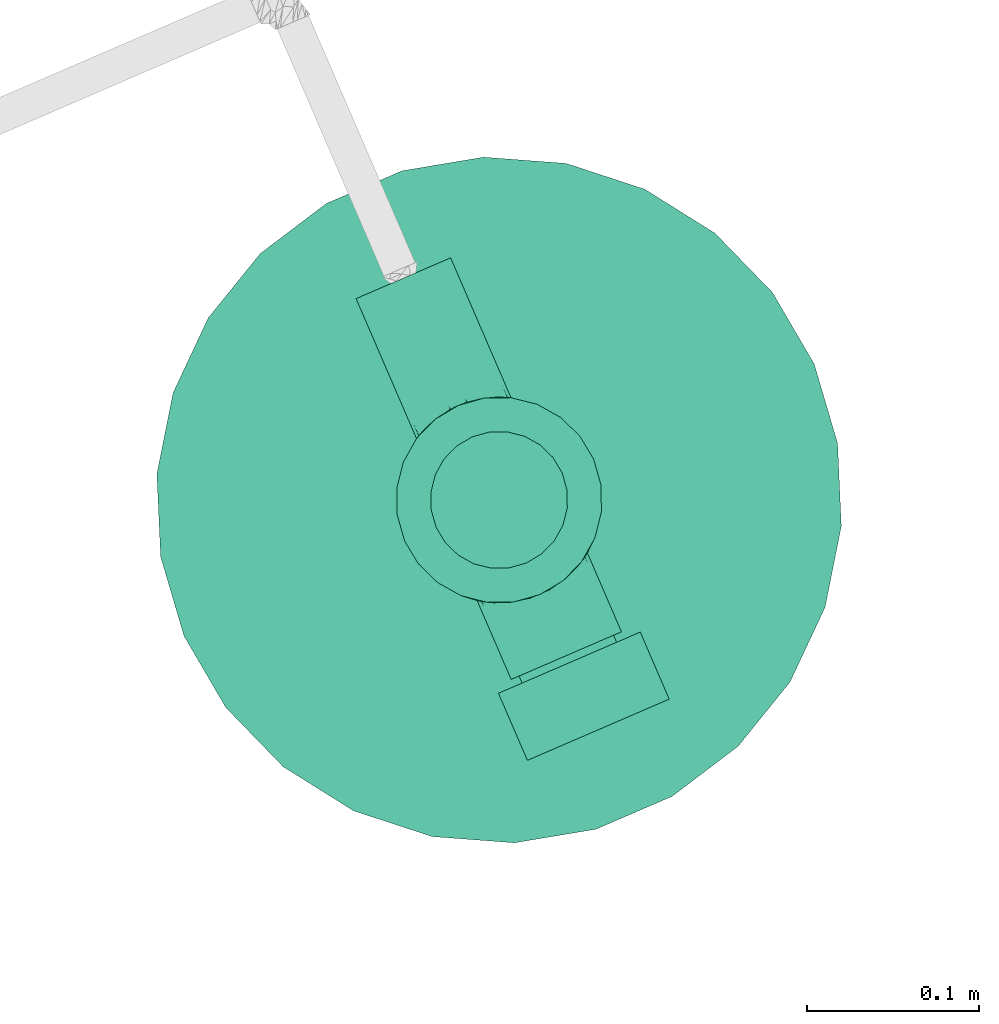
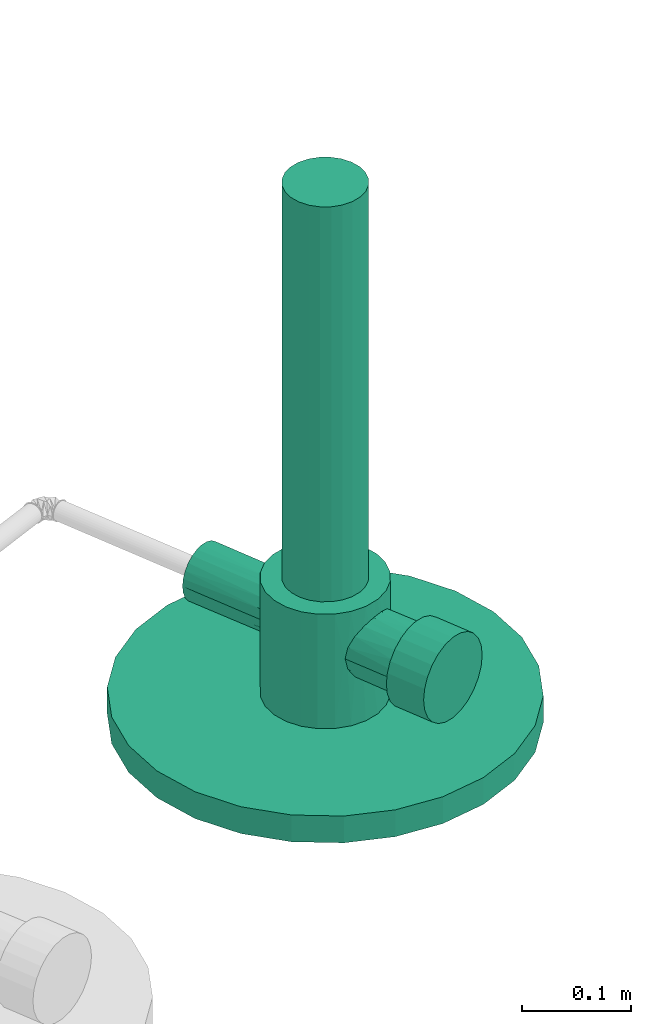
# One storey, part 16 of 26: 1 burner.
"""IFC4 building model written with IfcOpenShell, lengths in metres."""

from ifc_helpers import new_model, entity, si_unit, converted_unit, derived_unit, direction, frame, origin, place, context, subcontext, project, spatial, polygons, source, transform, mapped, material, type_object, type_shapes, element, save


model = new_model("IFC4")

# Units and contexts
model_context = context("Model", 3, precision=1e-05, world=origin(), true_north=direction((6.12323399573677e-17, 1.0)))
body_context = subcontext(model_context, "Body", "Model", "MODEL_VIEW")
ifc_project = project(units=[si_unit("LENGTHUNIT", "METRE"), si_unit("AREAUNIT", "SQUARE_METRE"), si_unit("VOLUMEUNIT", "CUBIC_METRE"), si_unit("PRESSUREUNIT", "PASCAL"), derived_unit("VOLUMETRICFLOWRATEUNIT", [(si_unit("LENGTHUNIT", "METRE", prefix="DECI"), 3), (si_unit("TIMEUNIT", "SECOND"), -1)]), converted_unit("PLANEANGLEUNIT", "DEGREE", entity("IfcPlaneAngleMeasure", 0.0174532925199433), si_unit("PLANEANGLEUNIT", "RADIAN"), dimensions=[0, 0, 0, 0, 0, 0, 0])], contexts=[model_context])

# Site, building, storey
site_placement = place(None, origin())
site = spatial("IfcSite", under=ifc_project, at=site_placement, Name="Default", CompositionType="ELEMENT")
building_placement = place(site_placement, frame((24.575451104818, -55.896759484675, 317.15), z_axis=(0.0, 0.0, 1.0), x_axis=(-0.396377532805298, 0.918087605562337, 0.0)))
building = spatial("IfcBuilding", under=site, at=building_placement, CompositionType="ELEMENT")
storey_placement = place(building_placement, origin())
storey = spatial("IfcBuildingStorey", under=building, at=storey_placement, Name="Nivel 1", CompositionType="ELEMENT", Elevation=0.0)

# Burner
ifc_material = material(Name="<Unnamed>")
burner_type = type_object("IfcBurnerType", Name="Mechero:Mechero", PredefinedType="NOTDEFINED", material=ifc_material)
shared_shape = source(origin(), body_context, "Body", "Tessellation", [
    polygons([(0.03, 0.140777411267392, 0.105540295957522), (0.0289777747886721, 0.140777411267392, 0.113304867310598), (0.0259807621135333, 0.140777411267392, 0.120540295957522), (0.0212132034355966, 0.140777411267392, 0.126753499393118), (0.0150000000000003, 0.140777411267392, 0.131521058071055), (0.00776457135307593, 0.140777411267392, 0.134518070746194), (3.24733641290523e-16, 0.140777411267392, 0.135540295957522), (-0.0077645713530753, 0.140777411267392, 0.134518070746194), (-0.0149999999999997, 0.140777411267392, 0.131521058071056), (-0.0212132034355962, 0.140777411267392, 0.126753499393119), (-0.025980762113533, 0.140777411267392, 0.120540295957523), (-0.0289777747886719, 0.140777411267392, 0.113304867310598), (-0.03, 0.140777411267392, 0.105540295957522), (-0.03, 0.0519615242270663, 0.105540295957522), (-0.0281488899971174, 0.0529871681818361, 0.115915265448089), (-0.0229729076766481, 0.0554278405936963, 0.124833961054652), (-0.0151160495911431, 0.058064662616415, 0.131453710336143), (-0.00529779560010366, 0.05976565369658, 0.135068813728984), (0.0052891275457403, 0.0597664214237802, 0.135070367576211), (0.015112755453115, 0.0580655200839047, 0.131455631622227), (0.0229650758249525, 0.0554310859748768, 0.124843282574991), (0.0281481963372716, 0.0529875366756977, 0.115917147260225), (0.03, 0.0519615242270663, 0.105540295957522), (0.0290740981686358, 0.052474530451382, 0.110728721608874), (0.0102009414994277, 0.0589159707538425, 0.133262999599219), (-0.0102069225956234, 0.0589151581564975, 0.133261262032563), (-4.33402718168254e-06, 0.0597660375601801, 0.135069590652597), (-0.0290744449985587, 0.0524743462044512, 0.110727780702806), (-0.028977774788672, 0.140777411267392, 0.0977757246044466), (-0.0259807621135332, 0.140777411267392, 0.0905402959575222), (-0.0212132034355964, 0.140777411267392, 0.0843270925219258), (-0.015, 0.140777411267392, 0.0795595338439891), (-0.00776457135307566, 0.140777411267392, 0.0765625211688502), (-4.89878376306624e-17, 0.140777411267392, 0.0755402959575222), (0.00776457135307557, 0.140777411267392, 0.0765625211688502), (0.0149999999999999, 0.140777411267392, 0.079559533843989), (0.0212132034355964, 0.140777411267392, 0.0843270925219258), (0.0259807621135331, 0.140777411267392, 0.0905402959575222), (0.028977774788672, 0.140777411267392, 0.0977757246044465), (0.0281481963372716, 0.0529875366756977, 0.0951634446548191), (0.0229650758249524, 0.0554310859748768, 0.0862373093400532), (0.0151127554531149, 0.0580655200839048, 0.079624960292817), (0.00528912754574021, 0.0597664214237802, 0.0760102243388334), (-0.00529779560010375, 0.05976565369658, 0.0760117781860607), (-0.0151160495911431, 0.058064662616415, 0.0796268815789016), (-0.0229729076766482, 0.0554278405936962, 0.0862466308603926), (-0.0281488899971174, 0.0529871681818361, 0.0951653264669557), (-0.0290744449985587, 0.0524743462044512, 0.100352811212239), (-0.0102069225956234, 0.0589151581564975, 0.0778193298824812), (0.0102009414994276, 0.0589159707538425, 0.0778175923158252), (-4.33402718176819e-06, 0.0597660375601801, 0.076011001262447), (0.0290740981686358, 0.052474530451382, 0.100351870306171), (-0.06, 1.938147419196e-16, 0.158062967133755), (-0.0579555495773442, -0.015529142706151, 0.158062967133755), (-0.0519615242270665, -0.0299999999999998, 0.158062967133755), (-0.042426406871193, -0.0424264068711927, 0.158062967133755), (-0.0300000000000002, -0.0519615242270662, 0.158062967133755), (-0.0155291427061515, -0.057955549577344, 0.158062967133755), (-2.79176681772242e-16, -0.06, 0.158062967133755), (0.015529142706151, -0.0579555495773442, 0.158062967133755), (0.0299999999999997, -0.0519615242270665, 0.158062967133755), (0.0424264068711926, -0.0424264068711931, 0.158062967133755), (0.0519615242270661, -0.0300000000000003, 0.158062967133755), (0.057955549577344, -0.0155291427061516, 0.158062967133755), (0.06, -5.06070118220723e-20, 0.158062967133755), (0.0579555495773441, 0.0155291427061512, 0.158062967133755), (0.0519615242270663, 0.03, 0.158062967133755), (0.0424264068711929, 0.0424264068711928, 0.158062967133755), (0.0300000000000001, 0.0519615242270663, 0.158062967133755), (0.0155291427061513, 0.0579555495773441, 0.158062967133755), (8.45989944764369e-17, 0.06, 0.158062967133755), (-0.0155291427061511, 0.0579555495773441, 0.158062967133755), (-0.0299999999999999, 0.0519615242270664, 0.158062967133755), (-0.0424264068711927, 0.042426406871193, 0.158062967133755), (-0.0519615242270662, 0.0300000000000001, 0.158062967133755), (-0.057955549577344, 0.0155291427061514, 0.158062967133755), (0.04, -2.58487131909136e-16, 0.158062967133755), (0.0386370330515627, -0.0103527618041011, 0.158062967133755), (0.0346410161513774, -0.0200000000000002, 0.158062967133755), (0.0282842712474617, -0.0282842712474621, 0.158062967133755), (0.0199999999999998, -0.0346410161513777, 0.158062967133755), (0.0103527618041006, -0.0386370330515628, 0.158062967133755), (-1.86117787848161e-16, -0.04, 0.158062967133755), (-0.010352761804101, -0.0386370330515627, 0.158062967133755), (-0.0200000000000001, -0.0346410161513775, 0.158062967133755), (-0.028284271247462, -0.0282842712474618, 0.158062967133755), (-0.0346410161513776, -0.0199999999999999, 0.158062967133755), (-0.0386370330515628, -0.0103527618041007, 0.158062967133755), (-0.04, -1.47007134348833e-16, 0.158062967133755), (-0.0386370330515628, 0.0103527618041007, 0.158062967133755), (-0.0346410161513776, 0.0199999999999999, 0.158062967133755), (-0.028284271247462, 0.0282842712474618, 0.158062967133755), (-0.0200000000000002, 0.0346410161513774, 0.158062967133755), (-0.010352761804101, 0.0386370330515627, 0.158062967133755), (-2.19957385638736e-16, 0.04, 0.158062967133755), (0.0103527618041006, 0.0386370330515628, 0.158062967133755), (0.0199999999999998, 0.0346410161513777, 0.158062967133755), (0.0282842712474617, 0.0282842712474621, 0.158062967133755), (0.0346410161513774, 0.0200000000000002, 0.158062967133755), (0.0386370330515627, 0.0103527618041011, 0.158062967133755), (-0.06, 1.67169389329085e-16, 0.03), (-0.057955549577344, 0.0155291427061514, 0.03), (-0.0519615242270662, 0.0300000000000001, 0.03), (-0.0424264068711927, 0.042426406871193, 0.03), (-0.0299999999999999, 0.0519615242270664, 0.03), (-0.0155291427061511, 0.0579555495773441, 0.03), (8.45989944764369e-17, 0.06, 0.03), (0.0155291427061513, 0.0579555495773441, 0.03), (0.0300000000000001, 0.0519615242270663, 0.03), (0.0424264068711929, 0.0424264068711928, 0.03), (0.0519615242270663, 0.03, 0.03), (0.0579555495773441, 0.0155291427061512, 0.03), (0.06, -3.34490599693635e-16, 0.03), (0.057955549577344, -0.0155291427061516, 0.03), (0.0519615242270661, -0.0300000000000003, 0.03), (0.0424264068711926, -0.0424264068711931, 0.03), (0.0299999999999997, -0.0519615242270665, 0.03), (0.015529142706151, -0.0579555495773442, 0.03), (-2.79176681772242e-16, -0.06, 0.03), (-0.0155291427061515, -0.057955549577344, 0.03), (-0.0300000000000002, -0.0519615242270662, 0.03), (-0.042426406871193, -0.0424264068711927, 0.03), (-0.0519615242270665, -0.0299999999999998, 0.03), (-0.0579555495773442, -0.015529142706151, 0.03), (-0.0350000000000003, -0.0487339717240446, 0.106389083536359), (-0.0328211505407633, -0.0502272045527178, 0.118545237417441), (-0.0268063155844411, -0.0536788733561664, 0.128892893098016), (-0.0176988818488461, -0.0573301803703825, 0.136584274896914), (-0.00622472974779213, -0.0596762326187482, 0.140831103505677), (0.00621395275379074, -0.0596773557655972, 0.140833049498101), (0.0176944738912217, -0.0573315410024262, 0.136586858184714), (0.0267976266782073, -0.0536832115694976, 0.12890323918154), (0.0328202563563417, -0.0502277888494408, 0.118547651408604), (0.0349999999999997, -0.0487339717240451, 0.106389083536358), (0.0328202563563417, -0.0502277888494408, 0.0942305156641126), (0.0267976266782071, -0.0536832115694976, 0.0838749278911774), (0.0176944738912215, -0.0573315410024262, 0.0761913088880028), (0.00621395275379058, -0.0596773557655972, 0.0719451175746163), (-0.00622472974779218, -0.0596762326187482, 0.0719470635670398), (-0.0176988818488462, -0.0573301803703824, 0.0761938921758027), (-0.0268063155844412, -0.0536788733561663, 0.0838852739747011), (-0.0328211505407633, -0.0502272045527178, 0.0942329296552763), (0.022764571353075, -0.0549585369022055, 0.158062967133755), (0.00776457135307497, -0.0589777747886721, 0.158062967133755), (-0.00776457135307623, -0.058977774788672, 0.158062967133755), (-0.0227645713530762, -0.054958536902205, 0.158062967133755), (-0.00776457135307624, -0.058977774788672, 0.03), (0.00776457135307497, -0.0589777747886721, 0.03), (-0.0119618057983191, -0.0585032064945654, 0.138707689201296), (-5.38849700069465e-06, -0.0596767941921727, 0.140832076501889), (0.0119542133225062, -0.0585044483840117, 0.138709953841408), (0.0191468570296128, -0.0564570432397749, 0.158062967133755), (0.00388228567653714, -0.0594888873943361, 0.158062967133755), (-0.00388228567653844, -0.059488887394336, 0.158062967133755), (-0.019146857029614, -0.0564570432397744, 0.158062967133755), (0.00310428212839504, -0.059677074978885, 0.140832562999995), (-0.0222525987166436, -0.0555045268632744, 0.132738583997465), (-0.011646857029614, -0.058466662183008, 0.158062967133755), (-0.00311505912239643, -0.0596765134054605, 0.140831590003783), (0.0116468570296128, -0.0584666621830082, 0.158062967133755), (0.0222460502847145, -0.0555073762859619, 0.132745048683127), (-0.0227645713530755, 0.0549585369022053, 0.158062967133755), (-0.00776457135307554, 0.0589777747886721, 0.158062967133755), (0.00776457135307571, 0.058977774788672, 0.158062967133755), (0.0227645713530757, 0.0549585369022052, 0.158062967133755), (-0.04, 1.29243565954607e-16, 0.6), (-0.0386370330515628, -0.0103527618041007, 0.6), (-0.0346410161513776, -0.0199999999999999, 0.6), (-0.028284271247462, -0.0282842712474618, 0.6), (-0.0200000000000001, -0.0346410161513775, 0.6), (-0.010352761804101, -0.0386370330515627, 0.6), (-1.86117787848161e-16, -0.04, 0.6), (0.0103527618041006, -0.0386370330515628, 0.6), (0.0199999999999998, -0.0346410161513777, 0.6), (0.0282842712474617, -0.0282842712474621, 0.6), (0.0346410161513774, -0.0200000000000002, 0.6), (0.0386370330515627, -0.0103527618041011, 0.6), (0.04, 0.0, 0.6), (0.0386370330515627, 0.0103527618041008, 0.6), (0.0346410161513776, 0.02, 0.6), (0.0282842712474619, 0.0282842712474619, 0.6), (0.02, 0.0346410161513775, 0.6), (0.0103527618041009, 0.0386370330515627, 0.6), (5.92192961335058e-17, 0.04, 0.6), (-0.0103527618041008, 0.0386370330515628, 0.6), (-0.0199999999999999, 0.0346410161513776, 0.6), (-0.0282842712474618, 0.028284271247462, 0.6), (-0.0346410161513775, 0.0200000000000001, 0.6), (-0.0386370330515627, 0.0103527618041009, 0.6), (0.03, -0.0987791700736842, 0.105540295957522), (0.0289777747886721, -0.0987791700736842, 0.113304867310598), (0.0259807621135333, -0.0987791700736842, 0.120540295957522), (0.0212132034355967, -0.0987791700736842, 0.126753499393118), (0.0150000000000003, -0.0987791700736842, 0.131521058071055), (0.00776457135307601, -0.0987791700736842, 0.134518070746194), (4.04669699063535e-16, -0.0987791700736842, 0.135540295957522), (-0.0077645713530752, -0.0987791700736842, 0.134518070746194), (-0.0149999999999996, -0.0987791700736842, 0.131521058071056), (-0.0212132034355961, -0.0987791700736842, 0.126753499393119), (-0.0259807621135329, -0.0987791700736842, 0.120540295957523), (-0.0289777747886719, -0.0987791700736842, 0.113304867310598), (-0.03, -0.0987791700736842, 0.105540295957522), (-0.03, -0.103264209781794, 0.105540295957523), (-0.0289777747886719, -0.103264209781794, 0.113304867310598), (-0.0259807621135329, -0.103264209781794, 0.120540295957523), (-0.0212132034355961, -0.103264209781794, 0.126753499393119), (-0.0149999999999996, -0.103264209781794, 0.131521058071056), (-0.0077645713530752, -0.103264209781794, 0.134518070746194), (4.04669699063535e-16, -0.103264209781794, 0.135540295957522), (0.00776457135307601, -0.103264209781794, 0.134518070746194), (0.0150000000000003, -0.103264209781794, 0.131521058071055), (0.0212132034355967, -0.103264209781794, 0.126753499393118), (0.0259807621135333, -0.103264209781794, 0.120540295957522), (0.0289777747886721, -0.103264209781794, 0.113304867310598), (0.03, -0.103264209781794, 0.105540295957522), (-0.028977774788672, -0.0987791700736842, 0.0977757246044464), (-0.0259807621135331, -0.0987791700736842, 0.0905402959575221), (-0.0212132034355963, -0.0987791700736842, 0.0843270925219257), (-0.0149999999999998, -0.0987791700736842, 0.079559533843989), (-0.00776457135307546, -0.0987791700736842, 0.0765625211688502), (1.64174983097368e-16, -0.0987791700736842, 0.0755402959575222), (0.00776457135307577, -0.0987791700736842, 0.0765625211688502), (0.0150000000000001, -0.0987791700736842, 0.0795595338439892), (0.0212132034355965, -0.0987791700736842, 0.0843270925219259), (0.0259807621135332, -0.0987791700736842, 0.0905402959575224), (0.0289777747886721, -0.0987791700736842, 0.0977757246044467), (0.0289777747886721, -0.103264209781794, 0.0977757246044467), (0.0259807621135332, -0.103264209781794, 0.0905402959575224), (0.0212132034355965, -0.103264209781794, 0.0843270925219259), (0.0150000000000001, -0.103264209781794, 0.0795595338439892), (0.00776457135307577, -0.103264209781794, 0.0765625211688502), (1.64174983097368e-16, -0.103264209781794, 0.0755402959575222), (-0.00776457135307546, -0.103264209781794, 0.0765625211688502), (-0.0149999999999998, -0.103264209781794, 0.079559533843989), (-0.0212132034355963, -0.103264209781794, 0.0843270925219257), (-0.0259807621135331, -0.103264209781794, 0.0905402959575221), (-0.028977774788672, -0.103264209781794, 0.0977757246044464), (0.035, -0.0987791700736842, 0.106389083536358), (0.0338074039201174, -0.0987791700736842, 0.115447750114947), (0.0303108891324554, -0.0987791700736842, 0.123889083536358), (0.0247487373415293, -0.0987791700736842, 0.131137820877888), (0.0175000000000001, -0.0987791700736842, 0.136699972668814), (0.00905866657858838, -0.0987791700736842, 0.140196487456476), (1.6073808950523e-16, -0.0987791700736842, 0.141389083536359), (-0.00905866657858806, -0.0987791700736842, 0.140196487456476), (-0.0174999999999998, -0.0987791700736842, 0.136699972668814), (-0.024748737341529, -0.0987791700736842, 0.131137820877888), (-0.0303108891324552, -0.0987791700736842, 0.123889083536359), (-0.0338074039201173, -0.0987791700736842, 0.115447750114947), (-0.035, -0.0987791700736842, 0.106389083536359), (-0.0338074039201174, -0.0987791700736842, 0.0973304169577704), (-0.0303108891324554, -0.0987791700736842, 0.0888890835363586), (-0.0247487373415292, -0.0987791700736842, 0.0816403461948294), (-0.0175, -0.0987791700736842, 0.0760781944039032), (-0.00905866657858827, -0.0987791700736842, 0.0725816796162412), (-5.07593966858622e-17, -0.0987791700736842, 0.0713890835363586), (0.00905866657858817, -0.0987791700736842, 0.0725816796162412), (0.0174999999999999, -0.0987791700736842, 0.0760781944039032), (0.0247487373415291, -0.0987791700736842, 0.0816403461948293), (0.0303108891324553, -0.0987791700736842, 0.0888890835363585), (0.0338074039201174, -0.0987791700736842, 0.0973304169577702), (0.0339101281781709, -0.0494808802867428, 0.112468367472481), (-0.0339105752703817, -0.0494805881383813, 0.1124671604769), (-0.0339105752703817, -0.0494805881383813, 0.100311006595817), (-0.0119618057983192, -0.0585032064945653, 0.0740704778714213), (-5.38849700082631e-06, -0.0596767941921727, 0.0719460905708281), (0.0119542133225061, -0.0585044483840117, 0.0740682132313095), (0.0339101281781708, -0.0494808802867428, 0.100309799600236), (-0.045, -0.145831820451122, 0.106435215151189), (-0.0434666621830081, -0.145831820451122, 0.0947883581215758), (-0.0389711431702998, -0.145831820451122, 0.0839352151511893), (-0.0318198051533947, -0.145831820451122, 0.0746154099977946), (-0.0225000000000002, -0.145831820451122, 0.0674640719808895), (-0.0116468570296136, -0.145831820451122, 0.0629685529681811), (-2.11497486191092e-16, -0.145831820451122, 0.0614352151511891), (0.0116468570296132, -0.145831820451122, 0.062968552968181), (0.0224999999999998, -0.145831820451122, 0.0674640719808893), (0.0318198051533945, -0.145831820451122, 0.0746154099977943), (0.0389711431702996, -0.145831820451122, 0.0839352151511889), (0.043466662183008, -0.145831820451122, 0.0947883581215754), (0.045, -0.145831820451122, 0.106435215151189), (0.0434666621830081, -0.145831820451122, 0.118082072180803), (0.0389711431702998, -0.145831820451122, 0.128935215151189), (0.0318198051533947, -0.145831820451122, 0.138255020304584), (0.0225, -0.145831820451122, 0.145406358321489), (0.0116468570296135, -0.145831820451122, 0.149901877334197), (5.92192961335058e-17, -0.145831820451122, 0.151435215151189), (-0.0116468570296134, -0.145831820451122, 0.149901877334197), (-0.0224999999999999, -0.145831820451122, 0.145406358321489), (-0.0318198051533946, -0.145831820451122, 0.138255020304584), (-0.0389711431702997, -0.145831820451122, 0.128935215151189), (-0.043466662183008, -0.145831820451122, 0.118082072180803), (-0.045, -0.103264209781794, 0.106435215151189), (-0.043466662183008, -0.103264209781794, 0.118082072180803), (-0.0389711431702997, -0.103264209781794, 0.128935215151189), (-0.0318198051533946, -0.103264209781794, 0.138255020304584), (-0.0224999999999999, -0.103264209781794, 0.145406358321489), (-0.0116468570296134, -0.103264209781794, 0.149901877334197), (5.92192961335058e-17, -0.103264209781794, 0.151435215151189), (0.0116468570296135, -0.103264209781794, 0.149901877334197), (0.0225, -0.103264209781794, 0.145406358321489), (0.0318198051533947, -0.103264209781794, 0.138255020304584), (0.0389711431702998, -0.103264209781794, 0.128935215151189), (0.0434666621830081, -0.103264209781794, 0.118082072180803), (0.045, -0.103264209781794, 0.106435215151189), (0.043466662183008, -0.103264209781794, 0.0947883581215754), (0.0389711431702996, -0.103264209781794, 0.0839352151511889), (0.0318198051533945, -0.103264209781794, 0.0746154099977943), (0.0224999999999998, -0.103264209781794, 0.0674640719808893), (0.0116468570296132, -0.103264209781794, 0.062968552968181), (-2.11497486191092e-16, -0.103264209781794, 0.0614352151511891), (-0.0116468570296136, -0.103264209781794, 0.0629685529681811), (-0.0225000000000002, -0.103264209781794, 0.0674640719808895), (-0.0318198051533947, -0.103264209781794, 0.0746154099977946), (-0.0389711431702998, -0.103264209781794, 0.0839352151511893), (-0.0434666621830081, -0.103264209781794, 0.0947883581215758)], [[[22, 2, 3]], [[20, 4, 5]], [[3, 4, 21]], [[6, 25, 5]], [[6, 19, 25]], [[2, 22, 24]], [[26, 9, 17]], [[22, 3, 21]], [[21, 4, 20]], [[13, 28, 12]], [[20, 5, 25]], [[24, 1, 2]], [[7, 18, 27, 19]], [[7, 19, 6]], [[10, 17, 9]], [[15, 11, 12]], [[10, 11, 16]], [[13, 14, 28]], [[18, 7, 8]], [[9, 26, 8]], [[26, 18, 8]], [[16, 17, 10]], [[11, 15, 16]], [[28, 15, 12]], [[24, 23, 1]], [[33, 44, 49]], [[45, 31, 32]], [[1, 52, 39]], [[33, 49, 32]], [[50, 36, 42]], [[29, 47, 48]], [[47, 29, 30]], [[47, 30, 46]], [[46, 30, 31]], [[46, 31, 45]], [[45, 32, 49]], [[48, 14, 13]], [[34, 43, 51, 44]], [[34, 44, 33]], [[37, 42, 36]], [[40, 38, 39]], [[37, 38, 41]], [[1, 23, 52]], [[43, 34, 35]], [[36, 50, 35]], [[50, 43, 35]], [[41, 42, 37]], [[38, 40, 41]], [[52, 40, 39]], [[48, 13, 29]], [[61, 62, 63, 64, 65, 66, 67, 68, 69, 165, 70, 164, 71, 163, 72, 162, 73, 74, 75, 76, 53, 54, 55, 56, 57, 146, 155, 58, 158, 145, 154, 59, 153, 144, 160, 60, 152, 143], [81, 82, 83, 84, 85, 86, 87, 88, 89, 90, 91, 92, 93, 94, 95, 96, 97, 98, 99, 100, 77, 78, 79, 80]], [[173, 174, 175, 176, 177, 178, 179, 180, 181, 182, 183, 184, 185, 186, 187, 188, 189, 166, 167, 168, 169, 170, 171, 172]], [[112, 113, 114, 115, 116, 117, 118, 148, 119, 147, 120, 121, 122, 123, 124, 101, 102, 103, 104, 105, 106, 107, 108, 109, 110, 111]], [[55, 123, 122, 56]], [[87, 86, 169, 168]], [[53, 101, 124, 54]], [[89, 88, 167, 166]], [[123, 55, 54, 124]], [[88, 87, 168, 167]], [[122, 142, 264, 125]], [[122, 121, 142]], [[140, 121, 120]], [[139, 120, 147, 119]], [[128, 58, 155]], [[140, 141, 121]], [[120, 139, 265, 140]], [[146, 127, 157]], [[144, 151, 60, 160]], [[121, 141, 142]], [[130, 144, 153]], [[125, 56, 122]], [[152, 161, 143]], [[56, 125, 263, 126]], [[149, 145, 158, 58]], [[59, 156, 153]], [[155, 157, 128]], [[126, 127, 57]], [[146, 57, 127]], [[149, 129, 145]], [[59, 159, 150, 156]], [[126, 57, 56]], [[161, 152, 131]], [[119, 138, 266, 139]], [[154, 129, 159]], [[118, 117, 137]], [[58, 128, 149]], [[118, 137, 267, 138]], [[136, 137, 117]], [[117, 135, 136]], [[118, 138, 119, 148]], [[115, 63, 62, 116]], [[80, 79, 176, 175]], [[114, 64, 63, 115]], [[79, 78, 177, 176]], [[116, 134, 268, 135]], [[116, 135, 117]], [[62, 134, 116]], [[129, 154, 145]], [[114, 113, 65, 64]], [[78, 77, 178, 177]], [[132, 143, 161]], [[60, 131, 152]], [[155, 146, 157]], [[156, 130, 153]], [[60, 151, 131]], [[132, 61, 143]], [[61, 133, 62]], [[133, 61, 132]], [[62, 133, 262, 134]], [[151, 144, 130]], [[159, 59, 154]], [[110, 68, 67, 111]], [[99, 98, 181, 180]], [[66, 65, 113, 112]], [[178, 77, 100, 179]], [[23, 69, 68, 110, 109]], [[98, 97, 182, 181]], [[111, 67, 66, 112]], [[179, 100, 99, 180]], [[108, 107, 43]], [[108, 43, 50, 42]], [[40, 109, 41]], [[42, 41, 108]], [[41, 109, 108]], [[109, 40, 52, 23]], [[69, 23, 24, 22]], [[20, 70, 165]], [[21, 165, 22]], [[165, 69, 22]], [[25, 19, 164]], [[25, 70, 20]], [[107, 44, 51, 43]], [[106, 45, 49, 44]], [[106, 44, 107]], [[71, 19, 27, 18]], [[46, 45, 106]], [[105, 47, 46]], [[70, 25, 164]], [[46, 106, 105]], [[19, 71, 164]], [[103, 75, 74, 104]], [[92, 91, 188, 187]], [[102, 76, 75, 103]], [[91, 90, 189, 188]], [[105, 104, 74, 73, 14]], [[93, 92, 187, 186]], [[105, 14, 48, 47]], [[73, 15, 28, 14]], [[102, 101, 53, 76]], [[90, 89, 166, 189]], [[15, 162, 16]], [[16, 162, 17]], [[20, 165, 21]], [[71, 18, 163]], [[26, 72, 163]], [[162, 72, 17]], [[163, 18, 26]], [[73, 162, 15]], [[72, 26, 17]], [[85, 84, 171, 170]], [[86, 85, 170, 169]], [[83, 172, 171, 84]], [[81, 80, 175, 174]], [[82, 81, 174, 173]], [[82, 173, 172, 83]], [[97, 96, 183, 182]], [[95, 184, 183, 96]], [[94, 93, 186, 185]], [[94, 185, 184, 95]], [[33, 32, 31, 30, 29, 13, 12, 11, 10, 9, 8, 7, 6, 5, 4, 3, 2, 1, 39, 38, 37, 36, 35, 34]], [[301, 302, 303, 304, 305, 306, 307, 308, 309, 310, 311, 312, 313, 314, 315, 316, 293, 294, 295, 296, 297, 298, 299, 300], [211, 210, 209, 208, 207, 206, 205, 204, 203, 237, 236, 235, 234, 233, 232, 231, 230, 229, 228, 227, 215, 214, 213, 212]], [[213, 214, 191, 192]], [[303, 283, 282, 304]], [[214, 215, 190, 191]], [[304, 282, 281, 305]], [[211, 212, 193, 194]], [[285, 284, 302, 301]], [[192, 193, 212, 213]], [[303, 302, 284, 283]], [[210, 211, 194, 195]], [[286, 285, 301, 300]], [[209, 210, 195, 196]], [[286, 300, 299, 287]], [[198, 207, 208, 197]], [[288, 298, 297, 289]], [[199, 206, 207, 198]], [[296, 290, 289, 297]], [[204, 205, 200, 201]], [[291, 295, 294, 292]], [[199, 200, 205, 206]], [[296, 295, 291, 290]], [[203, 204, 201, 202]], [[292, 294, 293, 269]], [[197, 208, 209, 196]], [[288, 287, 299, 298]], [[216, 237, 203, 202]], [[316, 270, 269, 293]], [[217, 236, 237, 216]], [[315, 271, 270, 316]], [[234, 235, 218, 219]], [[314, 313, 273, 272]], [[217, 218, 235, 236]], [[315, 314, 272, 271]], [[233, 234, 219, 220]], [[274, 273, 313, 312]], [[232, 233, 220, 221]], [[275, 274, 312, 311]], [[223, 230, 231, 222]], [[276, 310, 309, 277]], [[224, 229, 230, 223]], [[308, 278, 277, 309]], [[227, 228, 225, 226]], [[279, 307, 306, 280]], [[224, 225, 228, 229]], [[308, 307, 279, 278]], [[215, 227, 226, 190]], [[280, 306, 305, 281]], [[222, 231, 232, 221]], [[310, 276, 275, 311]], [[246, 247, 248, 249, 250, 251, 252, 253, 254, 255, 256, 257, 258, 259, 260, 261, 238, 239, 240, 241, 242, 243, 244, 245], [198, 197, 196, 195, 194, 193, 192, 191, 190, 226, 225, 224, 223, 222, 221, 220, 219, 218, 217, 216, 202, 201, 200, 199]], [[276, 277, 278, 279, 280, 281, 282, 283, 284, 285, 286, 287, 288, 289, 290, 291, 292, 269, 270, 271, 272, 273, 274, 275]], [[238, 262, 239]], [[262, 238, 134]], [[151, 130, 243]], [[242, 151, 243]], [[240, 133, 132]], [[241, 132, 161, 131]], [[249, 126, 263]], [[151, 242, 131]], [[240, 239, 133]], [[131, 242, 241]], [[241, 240, 132]], [[244, 130, 156, 150, 159, 129]], [[244, 129, 245]], [[243, 130, 244]], [[262, 133, 239]], [[149, 128, 246]], [[248, 127, 126]], [[245, 129, 149]], [[247, 128, 157, 127]], [[125, 250, 263]], [[245, 149, 246]], [[128, 247, 246]], [[248, 247, 127]], [[126, 249, 248]], [[249, 263, 250]], [[250, 264, 251]], [[254, 265, 255]], [[252, 142, 141]], [[253, 141, 140]], [[142, 252, 251]], [[265, 254, 140]], [[264, 250, 125]], [[141, 253, 252]], [[139, 256, 255]], [[265, 139, 255]], [[140, 254, 253]], [[264, 142, 251]], [[257, 138, 267]], [[256, 139, 266, 138]], [[256, 138, 257]], [[261, 135, 268]], [[267, 137, 258]], [[260, 136, 135]], [[137, 136, 259]], [[134, 238, 268]], [[257, 267, 258]], [[137, 259, 258]], [[260, 259, 136]], [[135, 261, 260]], [[261, 268, 238]]], closed=True),
    polygons([(-0.2, 6.46256136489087e-16, 0.03), (-0.194188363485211, -0.0478631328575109, 0.03), (-0.177091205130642, -0.0929446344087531, 0.03), (-0.149702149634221, -0.132624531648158, 0.03), (-0.113612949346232, -0.164596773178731, 0.03), (-0.070920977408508, -0.187003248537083, 0.03), (-0.0241073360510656, -0.198541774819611, 0.03), (0.0241073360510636, -0.198541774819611, 0.03), (0.0709209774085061, -0.187003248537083, 0.03), (0.11361294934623, -0.164596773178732, 0.03), (0.149702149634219, -0.13262453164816, 0.03), (0.177091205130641, -0.0929446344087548, 0.03), (0.19418836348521, -0.0478631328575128, 0.03), (0.2, 3.83067160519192e-20, 0.03), (0.19418836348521, 0.0478631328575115, 0.03), (0.177091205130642, 0.0929446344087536, 0.03), (0.14970214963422, 0.132624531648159, 0.03), (0.113612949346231, 0.164596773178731, 0.03), (0.0709209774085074, 0.187003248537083, 0.03), (0.0241073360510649, 0.198541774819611, 0.03), (-0.0241073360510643, 0.198541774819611, 0.03), (-0.0709209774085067, 0.187003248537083, 0.03), (-0.113612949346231, 0.164596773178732, 0.03), (-0.14970214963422, 0.132624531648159, 0.03), (-0.177091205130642, 0.0929446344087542, 0.03), (-0.19418836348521, 0.0478631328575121, 0.03), (-0.2, 6.46256136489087e-16, 0.0), (-0.19418836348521, 0.0478631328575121, 0.0), (-0.177091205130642, 0.0929446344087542, 0.0), (-0.14970214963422, 0.132624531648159, 0.0), (-0.113612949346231, 0.164596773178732, 0.0), (-0.0709209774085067, 0.187003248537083, 0.0), (-0.0241073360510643, 0.198541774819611, 0.0), (0.0241073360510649, 0.198541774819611, 0.0), (0.0709209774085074, 0.187003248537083, 0.0), (0.113612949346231, 0.164596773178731, 0.0), (0.14970214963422, 0.132624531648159, 0.0), (0.177091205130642, 0.0929446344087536, 0.0), (0.19418836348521, 0.0478631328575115, 0.0), (0.2, -1.29239735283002e-15, 0.0), (0.19418836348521, -0.0478631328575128, 0.0), (0.177091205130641, -0.0929446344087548, 0.0), (0.149702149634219, -0.13262453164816, 0.0), (0.11361294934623, -0.164596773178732, 0.0), (0.0709209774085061, -0.187003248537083, 0.0), (0.0241073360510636, -0.198541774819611, 0.0), (-0.0241073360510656, -0.198541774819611, 0.0), (-0.070920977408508, -0.187003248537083, 0.0), (-0.113612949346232, -0.164596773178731, 0.0), (-0.149702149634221, -0.132624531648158, 0.0), (-0.177091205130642, -0.0929446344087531, 0.0), (-0.194188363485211, -0.0478631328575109, 0.0)], [[[9, 10, 11, 12, 13, 14, 15, 16, 17, 18, 19, 20, 21, 22, 23, 24, 25, 26, 1, 2, 3, 4, 5, 6, 7, 8]], [[34, 35, 36, 37, 38, 39, 40, 41, 42, 43, 44, 45, 46, 47, 48, 49, 50, 51, 52, 27, 28, 29, 30, 31, 32, 33]], [[52, 2, 1, 27]], [[51, 3, 2, 52]], [[5, 4, 50, 49]], [[49, 48, 6, 5]], [[51, 50, 4, 3]], [[47, 7, 6, 48]], [[47, 46, 8, 7]], [[45, 9, 8, 46]], [[44, 10, 9, 45]], [[13, 12, 42, 41]], [[41, 40, 14, 13]], [[44, 43, 11, 10]], [[43, 42, 12, 11]], [[39, 15, 14, 40]], [[38, 16, 15, 39]], [[18, 17, 37, 36]], [[36, 35, 19, 18]], [[38, 37, 17, 16]], [[34, 20, 19, 35]], [[34, 33, 21, 20]], [[23, 22, 32, 31]], [[33, 32, 22, 21]], [[29, 28, 26, 25]], [[24, 30, 29, 25]], [[23, 31, 30, 24]], [[26, 28, 27, 1]]], closed=True),
])
type_shapes(burner_type, [shared_shape])
burner_placement = place(storey_placement, frame((34.6479372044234, 39.2338766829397, 0.75), z_axis=(0.0, 0.0, 1.0), x_axis=(0.0, -1.0, 0.0)))
element("IfcBurner", 1, at=burner_placement, inside=storey, type_object=burner_type, material=ifc_material, Name="Mechero:Mechero", ObjectType="Mechero:Mechero", PredefinedType="NOTDEFINED", context=body_context, shape_type="MappedRepresentation", body=[
    mapped(shared_shape, transform((0.0, 0.0, 0.0), scale=1.0)),
])

save(model, "model.ifc")
